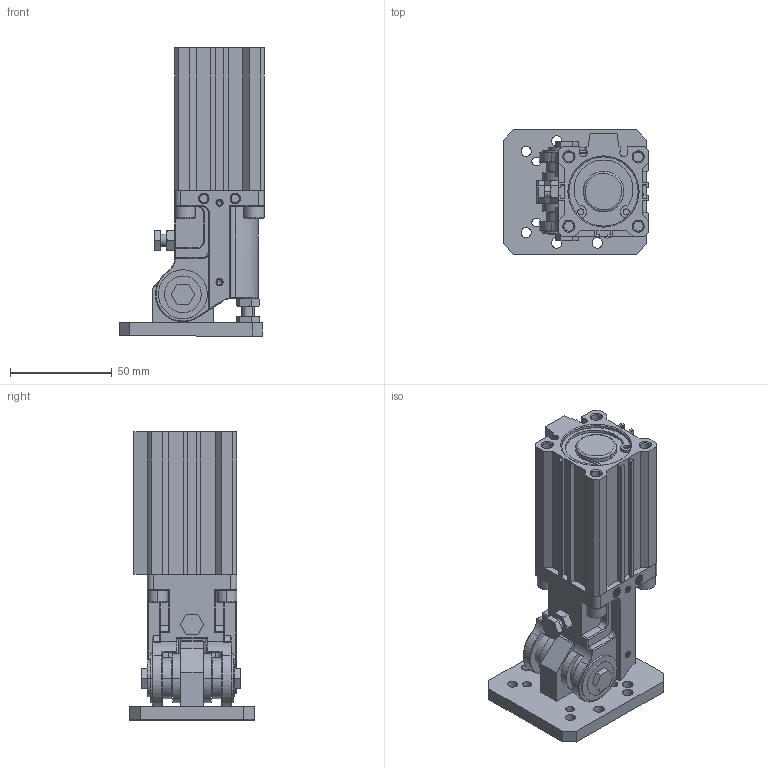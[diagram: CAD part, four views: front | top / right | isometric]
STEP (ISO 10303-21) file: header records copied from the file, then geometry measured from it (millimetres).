
FILE_DESCRIPTION(/* description */ (''),/* implementation_level */ '2;1');
FILE_NAME(/* name */ 'DHR2C-32M30PPV-ZG-ZB.stp',/* time_stamp */ '2025-04-09T11:10:31+08:00',/* author */ (''),/* organization */ (''),/* preprocessor_version */ 'ST-DEVELOPER v15',/* originating_system */ 'SIEMENS PLM Software NX 10.0',/* authorisation */ '');
FILE_SCHEMA (('AP203_CONFIGURATION_CONTROLLED_3D_DESIGN_OF_MECHANICAL_PARTS_AND_ASSEMBLIES_MIM_LF { 1 0 10303 403 2 1 2}'));
Products named in the file (1): Admi00C8E5C0fdl9
Bounding box: 71.04 x 61.01 x 141.56 mm (x, y, z)
Volume: 230719 mm3; surface area: 82225.4 mm2
Topology: 27 solids, 29 shells, 950 faces, 2361 edges, 1509 vertices
Faces by surface type: plane 444, cylinder 277, cone 193, bspline 32, torus 4
Full cylindrical faces by diameter (mm): 4 x2, 5 x16, 6.5 x4, 8 x2, 10 x2, 15 x2, 16 x1, 20.5 x1
Entity records: 60692 total; most frequent: CARTESIAN_POINT 38670, DIRECTION 4515, ORIENTED_EDGE 4466, EDGE_CURVE 2233, AXIS2_PLACEMENT_3D 1595, VERTEX_POINT 1449, LINE 1325, VECTOR 1325
